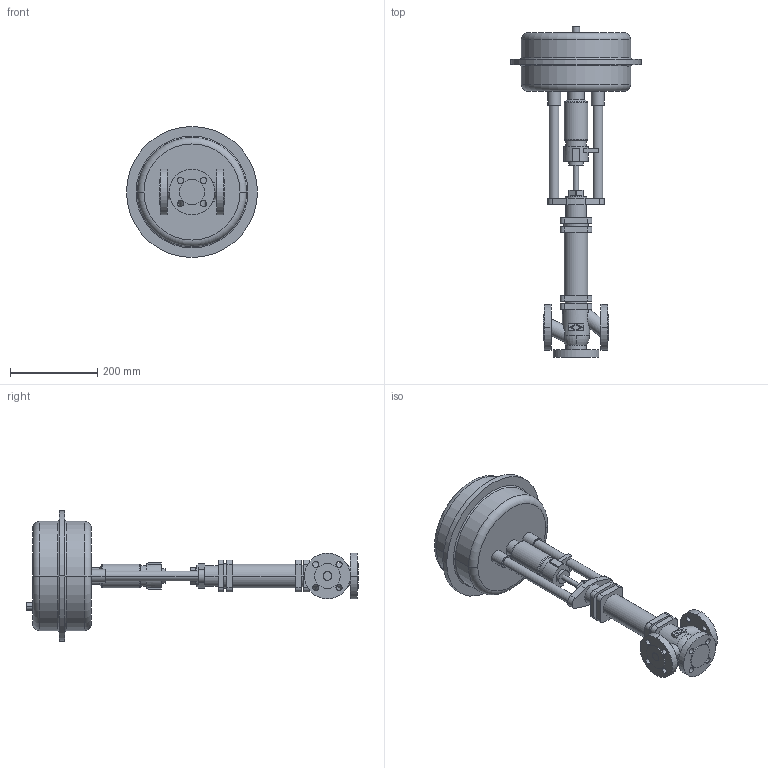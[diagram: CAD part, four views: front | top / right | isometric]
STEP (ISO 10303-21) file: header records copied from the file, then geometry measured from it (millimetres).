
FILE_DESCRIPTION(('OneSpaceDesigner STEP Export'),'2;1');
FILE_NAME('c000000753.stp','2006-09-21T 8:44:39',(''),(''),'OneSpace Designer STEP processor for AP214 (Solid Model)','OneSpace Designer 13.20A 18-Aug-2005 (C) CoCreate Software GmbH','');
FILE_SCHEMA(('AUTOMOTIVE_DESIGN { 1 0 10303 214 1 1 1 1 }'));
Length unit declared in the file: millimetre
Products named in the file (2): 1; 2
Bounding box: 300 x 760.6 x 300 mm (x, y, z)
Volume: 8903528.2 mm3; surface area: 488089.3 mm2
Topology: 2 solids, 2 shells, 236 faces, 580 edges, 382 vertices
Faces by surface type: cylinder 118, plane 96, torus 18, cone 4
Entity records: 6698 total; most frequent: CARTESIAN_POINT 1456, ORIENTED_EDGE 1160, DIRECTION 980, EDGE_CURVE 580, VERTEX_POINT 382, AXIS2_PLACEMENT_3D 353, EDGE_LOOP 294, VECTOR 274
